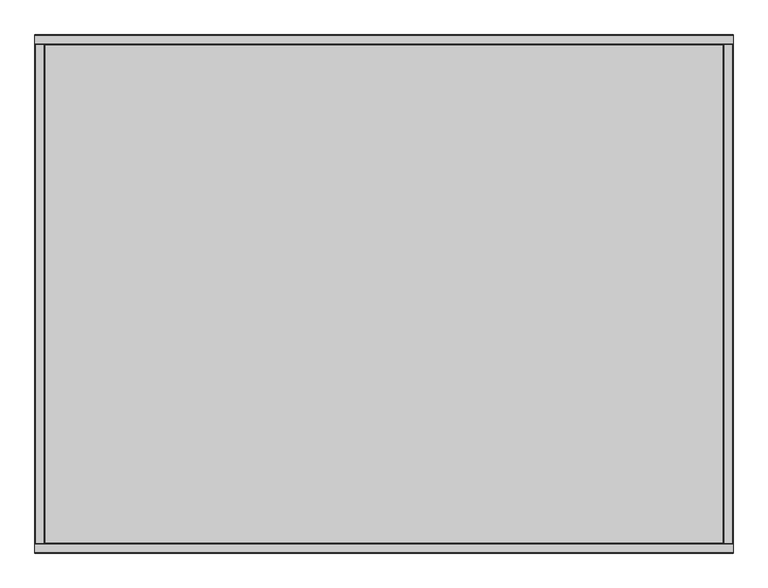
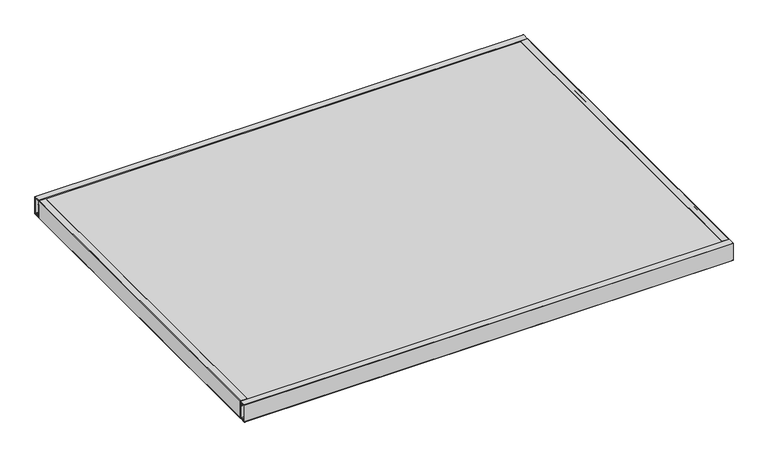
"""IFC4 building model written with IfcOpenShell, lengths in millimetres: proxy geometry, Specialy Equipment_Blindspace_Standard-Pockets-for-Roller-Blinds : 3500 mm x 2600 mm with 130 x 130 mm Box."""

from ifc_helpers import new_model, si_unit, point, frame, frame_2d, origin, place, context, project, spatial, polyline, circle_curve, trimmed, segment, composite_curve, outline, extrude, source, transform, mapped, element, save


def specialty_equipment_d6773d0d(model_context):
    return source(origin(), model_context, "Body", "SweptSolid", [
        extrude(outline(composite_curve([segment(polyline([(-150.4999999, -1749.25), (-150.4999999, -1702.9175768), (-147.9999999, -1700.0), (-51.9999999, -1700.0), (-51.9999999, -1707.4875145), (-54.4999999, -1707.4875145), (-54.4999999, -1702.4875145), (-147.9999999, -1702.4875145), (-147.9999999, -1723.0149627), (-142.6999999, -1723.0149627), (-142.6999999, -1729.9597598), (-147.9999999, -1729.9597598), (-147.9999999, -1738.0030209), (-142.6999999, -1738.0030209), (-142.6999999, -1744.991), (-147.9999999, -1744.991), (-147.9999999, -1747.5), (-23.0, -1747.5), (-23.0, -1744.991), (-28.3, -1744.991), (-28.3, -1738.0030209), (-23.0, -1738.0030209), (-23.0, -1729.9597598), (-28.3, -1729.9597598), (-28.3, -1723.0149627), (-23.0, -1723.0149627), (-23.0, -1700.0), (-20.5, -1702.9175768), (-20.5, -1749.25)]), True, "CONTINUOUS"), segment(trimmed(circle_curve(frame_2d((-21.25, -1749.25)), 0.75), [point((-20.5, -1749.25))], [point((-21.25, -1750.0))], False, "CARTESIAN"), True, "CONTINUOUS"), segment(polyline([(-21.25, -1750.0), (-149.7499999, -1750.0)]), True, "CONTINUOUS"), segment(trimmed(circle_curve(frame_2d((-149.7499999, -1749.25)), 0.75), [point((-149.7499999, -1750.0))], [point((-150.4999999, -1749.25))], False, "CARTESIAN"), True, "CONTINUOUS")], self_intersect=False)), frame((0.0, -1250.0, 0.0), z_axis=(0.0, 1.0, 0.0), x_axis=(0.0, 0.0, 1.0)), (0.0, 0.0, 1.0), 2500.0),
        extrude(outline(composite_curve([segment(trimmed(circle_curve(frame_2d((-149.7499999, 1749.25)), 0.75), [point((-150.4999999, 1749.25))], [point((-149.7499999, 1750.0))], False, "CARTESIAN"), True, "CONTINUOUS"), segment(polyline([(-149.7499999, 1750.0), (-21.25, 1750.0)]), True, "CONTINUOUS"), segment(trimmed(circle_curve(frame_2d((-21.25, 1749.25)), 0.75), [point((-21.25, 1750.0))], [point((-20.5, 1749.25))], False, "CARTESIAN"), True, "CONTINUOUS"), segment(polyline([(-20.5, 1749.25), (-20.5, 1702.9175768), (-23.0, 1700.0), (-23.0, 1723.0149627), (-28.3, 1723.0149627), (-28.3, 1729.9597598), (-23.0, 1729.9597598), (-23.0, 1738.0030209), (-28.3, 1738.0030209), (-28.3, 1744.991), (-23.0, 1744.991), (-23.0, 1747.5), (-147.9999999, 1747.5), (-147.9999999, 1744.991), (-142.6999999, 1744.991), (-142.6999999, 1738.0030209), (-147.9999999, 1738.0030209), (-147.9999999, 1729.9597598), (-142.6999999, 1729.9597598), (-142.6999999, 1723.0149627), (-147.9999999, 1723.0149627), (-147.9999999, 1702.4875145), (-54.4999999, 1702.4875145), (-54.4999999, 1707.4875145), (-51.9999999, 1707.4875145), (-51.9999999, 1700.0), (-147.9999999, 1700.0), (-150.4999999, 1702.9175768), (-150.4999999, 1749.25)]), True, "CONTINUOUS")], self_intersect=False)), frame((0.0, -1250.0, 0.0), z_axis=(0.0, 1.0, 0.0), x_axis=(0.0, 0.0, 1.0)), (0.0, 0.0, 1.0), 2500.0),
        extrude(outline(composite_curve([segment(trimmed(circle_curve(frame_2d((-1299.25, -149.7499999)), 0.75), [point((-1299.25, -150.4999999))], [point((-1300.0, -149.7499999))], False, "CARTESIAN"), True, "CONTINUOUS"), segment(polyline([(-1300.0, -149.7499999), (-1300.0, -21.25)]), True, "CONTINUOUS"), segment(trimmed(circle_curve(frame_2d((-1299.25, -21.25)), 0.75), [point((-1300.0, -21.25))], [point((-1299.25, -20.5))], False, "CARTESIAN"), True, "CONTINUOUS"), segment(polyline([(-1299.25, -20.5), (-1252.9175768, -20.5), (-1250.0, -23.0), (-1273.0149627, -23.0), (-1273.0149627, -28.3), (-1279.9597598, -28.3), (-1279.9597598, -23.0), (-1288.0030209, -23.0), (-1288.0030209, -28.3), (-1294.991, -28.3), (-1294.991, -23.0), (-1297.5, -23.0), (-1297.5, -147.9999999), (-1294.991, -147.9999999), (-1294.991, -142.6999999), (-1288.0030209, -142.6999999), (-1288.0030209, -147.9999999), (-1279.9597598, -147.9999999), (-1279.9597598, -142.6999999), (-1273.0149627, -142.6999999), (-1273.0149627, -147.9999999), (-1252.4875145, -147.9999999), (-1252.4875145, -54.4999999), (-1257.4875145, -54.4999999), (-1257.4875145, -51.9999999), (-1250.0, -51.9999999), (-1250.0, -147.9999999), (-1252.9175768, -150.4999999), (-1299.25, -150.4999999)]), True, "CONTINUOUS")], self_intersect=False)), frame((-1750.0, 0.0, 0.0), z_axis=(1.0, 0.0, 0.0), x_axis=(0.0, 1.0, 0.0)), (0.0, 0.0, 1.0), 3500.0),
        extrude(outline(composite_curve([segment(polyline([(1299.25, -150.4999999), (1252.9175768, -150.4999999), (1250.0, -147.9999999), (1250.0, -51.9999999), (1257.4875145, -51.9999999), (1257.4875145, -54.4999999), (1252.4875145, -54.4999999), (1252.4875145, -147.9999999), (1273.0149627, -147.9999999), (1273.0149627, -142.6999999), (1279.9597598, -142.6999999), (1279.9597598, -147.9999999), (1288.0030209, -147.9999999), (1288.0030209, -142.6999999), (1294.991, -142.6999999), (1294.991, -147.9999999), (1297.5, -147.9999999), (1297.5, -23.0), (1294.991, -23.0), (1294.991, -28.3), (1288.0030209, -28.3), (1288.0030209, -23.0), (1279.9597598, -23.0), (1279.9597598, -28.3), (1273.0149627, -28.3), (1273.0149627, -23.0), (1250.0, -23.0), (1252.9175768, -20.5), (1299.25, -20.5)]), True, "CONTINUOUS"), segment(trimmed(circle_curve(frame_2d((1299.25, -21.25)), 0.75), [point((1299.25, -20.5))], [point((1300.0, -21.25))], False, "CARTESIAN"), True, "CONTINUOUS"), segment(polyline([(1300.0, -21.25), (1300.0, -149.7499999)]), True, "CONTINUOUS"), segment(trimmed(circle_curve(frame_2d((1299.25, -149.7499999)), 0.75), [point((1300.0, -149.7499999))], [point((1299.25, -150.4999999))], False, "CARTESIAN"), True, "CONTINUOUS")], self_intersect=False)), frame((-1750.0, 0.0, 0.0), z_axis=(1.0, 0.0, 0.0), x_axis=(0.0, 1.0, 0.0)), (0.0, 0.0, 1.0), 3500.0),
        extrude(outline(polyline([(1730.0, 1280.0), (1730.0, -1280.0), (-1730.0, -1280.0), (-1730.0, 1280.0), (1730.0, 1280.0)])), frame((0.0, 0.0, -42.4999999), z_axis=(0.0, 0.0, 1.0), x_axis=(1.0, 0.0, 0.0)), (0.0, 0.0, 1.0), 5.0),
    ])


if __name__ == "__main__":
    model = new_model("IFC4")
    model_context = context("Model", 3, world=origin())
    ifc_project = project(units=[si_unit("LENGTHUNIT", "METRE", prefix="MILLI")], contexts=[model_context])
    site = spatial("IfcSite", under=ifc_project)
    building = spatial("IfcBuilding", under=site)
    placement = place(None, origin())
    specialty_equipment_shape = specialty_equipment_d6773d0d(model_context)
    element("IfcBuildingElementProxy", 1, Name="Specialy Equipment_Blindspace_Standard-Pockets-for-Roller-Blinds : 3500 mm x 2600 mm with 130 x 130 mm Box", ObjectType="Specialy Equipment_Blindspace_Standard-Pockets-for-Roller-Blinds : 3500 mm x 2600 mm with 130 x 130 mm Box", at=placement, inside=building, context=model_context, shape_type="MappedRepresentation", body=[
        mapped(specialty_equipment_shape, transform((0.0, 0.0, 0.0), x_axis=(1.0, 0.0, 0.0), y_axis=(0.0, 1.0, 0.0), z_axis=(0.0, 0.0, 1.0))),
    ])
    save(model, "model.ifc")
